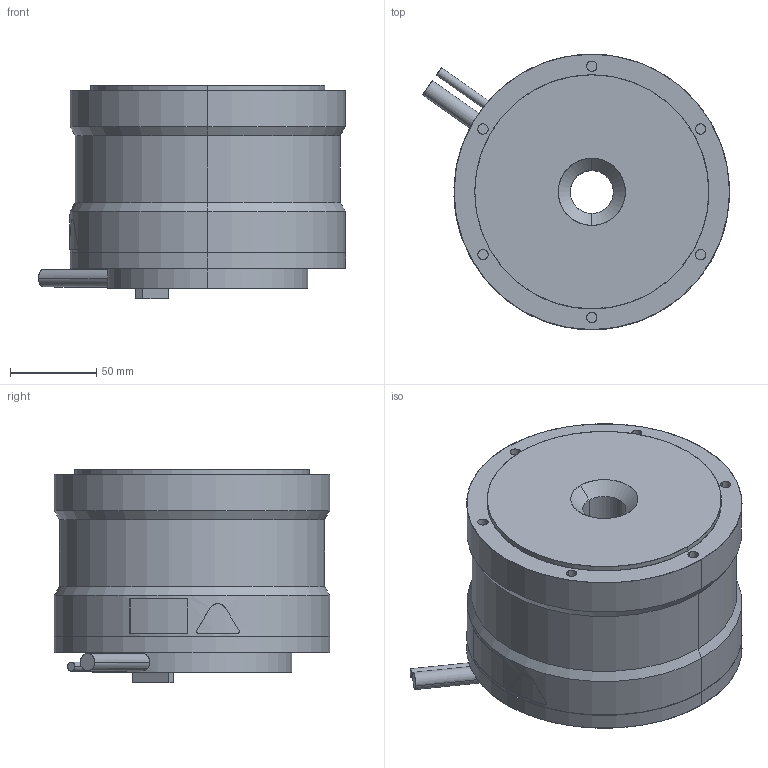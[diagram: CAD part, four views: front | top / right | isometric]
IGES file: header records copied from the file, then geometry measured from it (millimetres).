
Start section: SolidWorks IGES file using analytic representation for surfaces
Bounding box: 178.36 x 160 x 124 mm (x, y, z)
Surface area: 114226.8 mm2 (no closed solid volume)
Topology: 0 solids, 0 shells, 188 faces, 4124 edges, 4124 vertices
Faces by surface type: revolution 112, bspline 76
